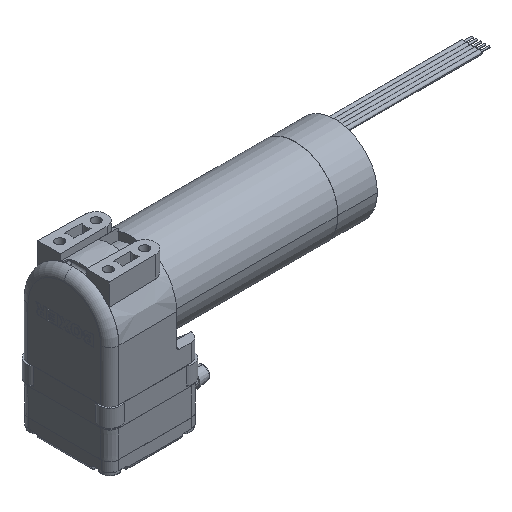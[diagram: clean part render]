
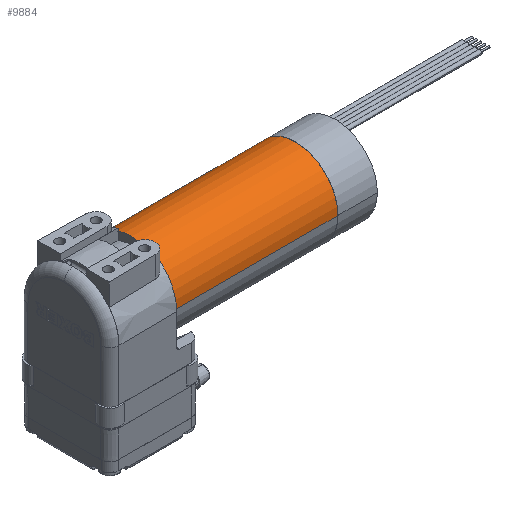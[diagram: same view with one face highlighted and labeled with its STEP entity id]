
A CAD part, isometric view. The second image highlights one B-rep face of the part: STEP entity #9884.
In plain terms, the highlighted cylindrical face has radius 14 mm (diameter 28 mm), a partial arc.
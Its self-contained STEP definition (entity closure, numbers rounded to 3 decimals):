
#1299 = ORIENTED_EDGE ( 'NONE', *, *, #5966, .T. ) ;
#2479 = VERTEX_POINT ( 'NONE', #3590 ) ;
#3590 = CARTESIAN_POINT ( 'NONE',  ( -14., 0., 0. ) ) ;
#5175 = EDGE_CURVE ( 'NONE', #17606, #8777, #48722, .T. ) ;
#5582 = LINE ( 'NONE', #53354, #16916 ) ;
#5668 = AXIS2_PLACEMENT_3D ( 'NONE', #7272, #36835, #11552 ) ;
#5966 = EDGE_CURVE ( 'NONE', #8777, #44476, #31846, .T. ) ;
#6796 = CARTESIAN_POINT ( 'NONE',  ( -14., -54., 0. ) ) ;
#7123 = DIRECTION ( 'NONE',  ( 0., 1., 0. ) ) ;
#7272 = CARTESIAN_POINT ( 'NONE',  ( 0., 0., 0. ) ) ;
#7677 = CYLINDRICAL_SURFACE ( 'NONE', #52462, 14. ) ;
#8777 = VERTEX_POINT ( 'NONE', #51176 ) ;
#9884 = ADVANCED_FACE ( 'NONE', ( #41390 ), #7677, .T. ) ;
#10246 = DIRECTION ( 'NONE',  ( 0., 1., 0. ) ) ;
#11552 = DIRECTION ( 'NONE',  ( -1., 0., 0. ) ) ;
#11911 = ORIENTED_EDGE ( 'NONE', *, *, #31464, .F. ) ;
#14530 = DIRECTION ( 'NONE',  ( -1., 0., 0. ) ) ;
#15388 = DIRECTION ( 'NONE',  ( 0., 1., 0. ) ) ;
#16916 = VECTOR ( 'NONE', #15388, 1000. ) ;
#17606 = VERTEX_POINT ( 'NONE', #6796 ) ;
#18183 = EDGE_CURVE ( 'NONE', #2479, #44476, #52921, .T. ) ;
#18262 = CARTESIAN_POINT ( 'NONE',  ( 14., 17.8, 0. ) ) ;
#18793 = CARTESIAN_POINT ( 'NONE',  ( 0., 17.8, 0. ) ) ;
#31464 = EDGE_CURVE ( 'NONE', #17606, #2479, #5582, .T. ) ;
#31846 = LINE ( 'NONE', #18262, #43021 ) ;
#31971 = ORIENTED_EDGE ( 'NONE', *, *, #5175, .T. ) ;
#32476 = CARTESIAN_POINT ( 'NONE',  ( 0., -54., 0. ) ) ;
#34100 = CARTESIAN_POINT ( 'NONE',  ( 14., 0., 0. ) ) ;
#35240 = ORIENTED_EDGE ( 'NONE', *, *, #18183, .F. ) ;
#36699 = DIRECTION ( 'NONE',  ( -1., 0., 0. ) ) ;
#36835 = DIRECTION ( 'NONE',  ( 0., 1., 0. ) ) ;
#40917 = EDGE_LOOP ( 'NONE', ( #31971, #1299, #35240, #11911 ) ) ;
#41390 = FACE_OUTER_BOUND ( 'NONE', #40917, .T. ) ;
#43021 = VECTOR ( 'NONE', #43481, 1000. ) ;
#43481 = DIRECTION ( 'NONE',  ( 0., 1., 0. ) ) ;
#44476 = VERTEX_POINT ( 'NONE', #34100 ) ;
#48722 = CIRCLE ( 'NONE', #54418, 14. ) ;
#51176 = CARTESIAN_POINT ( 'NONE',  ( 14., -54., 0. ) ) ;
#52462 = AXIS2_PLACEMENT_3D ( 'NONE', #18793, #10246, #14530 ) ;
#52921 = CIRCLE ( 'NONE', #5668, 14. ) ;
#53354 = CARTESIAN_POINT ( 'NONE',  ( -14., 17.8, 0. ) ) ;
#54418 = AXIS2_PLACEMENT_3D ( 'NONE', #32476, #7123, #36699 ) ;
